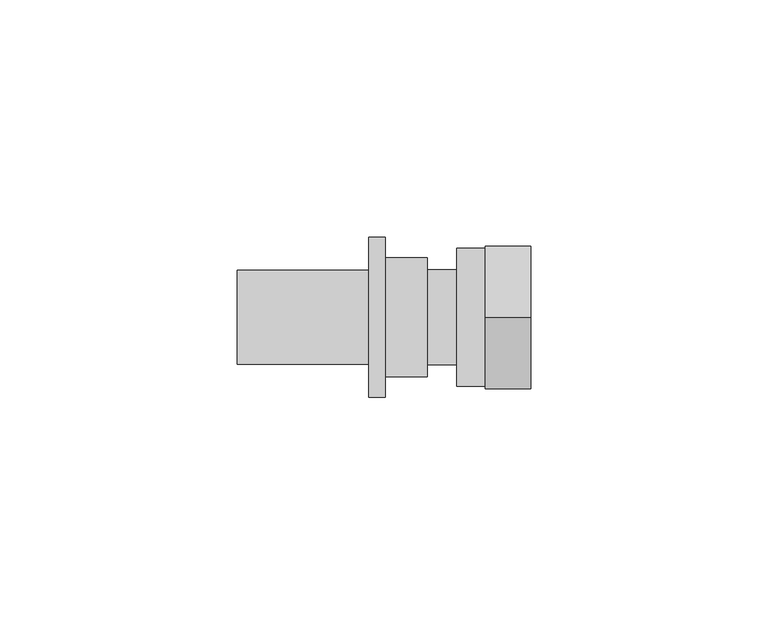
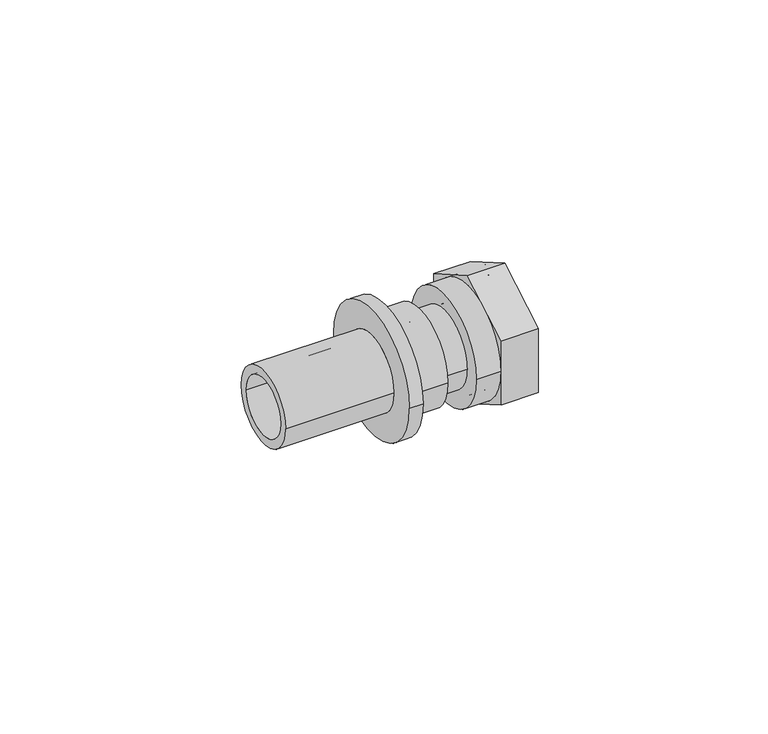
"""IFC4 building model written with IfcOpenShell, lengths in millimetres: pipe fitting geometry, REHAU_RAUTITAN_Adaptor_RX+_union nut : REHAU_RAUTITAN_Adaptor_RX+_union nut."""

from ifc_helpers import new_model, si_unit, point, frame, origin, origin_2d, place, context, project, spatial, polyline, circle_curve, trimmed, segment, composite_curve, outline, extrude, source, transform, mapped, element, save
from ifc_brep_helpers import plane_surface, cylinder_surface, revolved_surface, advanced_brep


def pipe_fitting_46779adb(model_context):
    return source(origin(), model_context, "Body", "SolidModel", [
        advanced_brep(
        [(0.0, 12.5, 0.0), (0.0, -12.5, 0.0), (-8.85, -12.5, 0.0), (-8.85, 12.5, 0.0), (-40.0, 7.6, 0.0), (-40.0, -7.6, 0.0), (0.0, -7.6, 0.0), (0.0, 7.6, 0.0), (-12.35, 9.875, 0.0), (-12.35, -9.875, 0.0), (-40.0, -9.875, 0.0), (-40.0, 9.875, 0.0), (-8.85, 16.8, 0.0), (-8.85, -16.8, 0.0), (-12.35, -16.8, 0.0), (-12.35, 16.8, 0.0)],
        [
            (0, 1, circle_curve(frame((0.0, 0.0, 0.0), z_axis=(-1.0, 0.0, 0.0), x_axis=(0.0, -1.0, 0.0)), 12.5)),
            (1, 2),
            (2, 3, circle_curve(frame((-8.85, 0.0, 0.0), z_axis=(1.0, 0.0, 0.0), x_axis=(0.0, -1.0, 0.0)), 12.5)),
            (3, 0),
            (4, 5, circle_curve(frame((-40.0, 0.0, 0.0), z_axis=(-1.0, 0.0, 0.0), x_axis=(0.0, -1.0, 0.0)), 7.6)),
            (5, 6),
            (6, 7, circle_curve(frame((0.0, 0.0, 0.0), z_axis=(1.0, 0.0, 0.0), x_axis=(0.0, -1.0, 0.0)), 7.6)),
            (7, 4),
            (8, 9, circle_curve(frame((-12.35, 0.0, 0.0), z_axis=(-1.0, 0.0, 0.0), x_axis=(0.0, -1.0, 0.0)), 9.875)),
            (9, 10),
            (10, 11, circle_curve(frame((-40.0, 0.0, 0.0), z_axis=(1.0, 0.0, 0.0), x_axis=(0.0, -1.0, 0.0)), 9.875)),
            (11, 8),
            (12, 13, circle_curve(frame((-8.85, 0.0, 0.0), z_axis=(-1.0, 0.0, 0.0), x_axis=(0.0, -1.0, 0.0)), 16.8)),
            (13, 14),
            (14, 15, circle_curve(frame((-12.35, 0.0, 0.0), z_axis=(1.0, 0.0, 0.0), x_axis=(0.0, -1.0, 0.0)), 16.8)),
            (15, 12),
            (1, 0, circle_curve(frame((0.0, 0.0, 0.0), z_axis=(-1.0, 0.0, 0.0), x_axis=(0.0, 1.0, 0.0)), 12.5)),
            (3, 2, circle_curve(frame((-8.85, 0.0, 0.0), z_axis=(1.0, 0.0, 0.0), x_axis=(0.0, 1.0, 0.0)), 12.5)),
            (6, 7, circle_curve(frame((0.0, 0.0, 0.0), z_axis=(-1.0, 0.0, 0.0), x_axis=(0.0, 1.0, 0.0)), 7.6)),
            (5, 4, circle_curve(frame((-40.0, 0.0, 0.0), z_axis=(-1.0, 0.0, 0.0), x_axis=(0.0, 1.0, 0.0)), 7.6)),
            (10, 11, circle_curve(frame((-40.0, 0.0, 0.0), z_axis=(-1.0, 0.0, 0.0), x_axis=(0.0, 1.0, 0.0)), 9.875)),
            (9, 8, circle_curve(frame((-12.35, 0.0, 0.0), z_axis=(-1.0, 0.0, 0.0), x_axis=(0.0, 1.0, 0.0)), 9.875)),
            (14, 15, circle_curve(frame((-12.35, 0.0, 0.0), z_axis=(-1.0, 0.0, 0.0), x_axis=(0.0, 1.0, 0.0)), 16.8)),
            (13, 12, circle_curve(frame((-8.85, 0.0, 0.0), z_axis=(-1.0, 0.0, 0.0), x_axis=(0.0, 1.0, 0.0)), 16.8)),
        ],
        [
            cylinder_surface(frame((0.0, 0.0, 0.0), z_axis=(1.0, 0.0, 0.0), x_axis=(0.0, -1.0, 0.0)), 12.5),
            revolved_surface(polyline([(0.0, -7.6, 0.0), (-40.0, -7.6, 0.0)]), (0.0, 0.0, 0.0), (1.0, 0.0, 0.0)),
            cylinder_surface(frame((0.0, 0.0, 0.0), z_axis=(1.0, 0.0, 0.0), x_axis=(0.0, -1.0, 0.0)), 9.875),
            cylinder_surface(frame((0.0, 0.0, 0.0), z_axis=(1.0, 0.0, 0.0), x_axis=(0.0, -1.0, 0.0)), 16.8),
            cylinder_surface(frame((0.0, 0.0, 0.0), z_axis=(1.0, 0.0, 0.0), x_axis=(0.0, 1.0, 0.0)), 12.5),
            plane_surface(frame((0.0, 0.0, 0.0), z_axis=(1.0, 0.0, 0.0), x_axis=(0.0, 1.0, 0.0))),
            revolved_surface(polyline([(0.0, 7.6, 0.0), (-40.0, 7.6, 0.0)]), (0.0, 0.0, 0.0), (1.0, 0.0, 0.0)),
            plane_surface(frame((-40.0, 0.0, 0.0), z_axis=(-1.0, 0.0, 0.0), x_axis=(0.0, 1.0, 0.0))),
            cylinder_surface(frame((0.0, 0.0, 0.0), z_axis=(1.0, 0.0, 0.0), x_axis=(0.0, 1.0, 0.0)), 9.875),
            plane_surface(frame((-12.35, 0.0, 0.0), z_axis=(-1.0, 0.0, 0.0), x_axis=(0.0, 1.0, 0.0))),
            cylinder_surface(frame((0.0, 0.0, 0.0), z_axis=(1.0, 0.0, 0.0), x_axis=(0.0, 1.0, 0.0)), 16.8),
            plane_surface(frame((-8.85, 0.0, 0.0), z_axis=(1.0, 0.0, 0.0), x_axis=(0.0, 1.0, 0.0))),
        ],
        [
            (0, [[1, 2, 3, 4]]),
            (1, [[5, 6, 7, 8]]),
            (2, [[9, 10, 11, 12]]),
            (3, [[13, 14, 15, 16]]),
            (4, [[17, -4, 18, -2]]),
            (5, [[-17, -1], [19, -7]]),
            (6, [[20, -8, -19, -6]]),
            (7, [[21, -11], [-20, -5]]),
            (8, [[22, -12, -21, -10]]),
            (9, [[23, -15], [-22, -9]]),
            (10, [[24, -16, -23, -14]]),
            (11, [[-24, -13], [-18, -3]]),
        ],
    ),
        advanced_brep(
        [(9.0, 10.0, 0.0), (9.0, -10.0, 0.0), (0.0, -10.0, 0.0), (0.0, 10.0, 0.0), (12.0, 12.0, 0.0), (12.0, -12.0, 0.0), (9.0, -12.0, 0.0), (9.0, 12.0, 0.0), (1.4730817, 7.6, 0.0), (1.4730817, -7.6, 0.0), (12.0, -7.6, 0.0), (12.0, 7.6, 0.0), (0.0, 5.4264556, 0.0), (0.0, -5.4264556, 0.0), (1.4730817, -5.4264556, 0.0), (1.4730817, 5.4264556, 0.0)],
        [
            (0, 1, circle_curve(frame((9.0, 0.0, 0.0), z_axis=(-1.0, 0.0, 0.0), x_axis=(0.0, -1.0, 0.0)), 10.0)),
            (1, 2),
            (2, 3, circle_curve(frame((0.0, 0.0, 0.0), z_axis=(1.0, 0.0, 0.0), x_axis=(0.0, -1.0, 0.0)), 10.0)),
            (3, 0),
            (4, 5, circle_curve(frame((12.0, 0.0, 0.0), z_axis=(-1.0, 0.0, 0.0), x_axis=(0.0, -1.0, 0.0)), 12.0)),
            (5, 6),
            (6, 7, circle_curve(frame((9.0, 0.0, 0.0), z_axis=(1.0, 0.0, 0.0), x_axis=(0.0, -1.0, 0.0)), 12.0)),
            (7, 4),
            (8, 9, circle_curve(frame((1.4730817, 0.0, 0.0), z_axis=(-1.0, 0.0, 0.0), x_axis=(0.0, -1.0, 0.0)), 7.6)),
            (9, 10),
            (10, 11, circle_curve(frame((12.0, 0.0, 0.0), z_axis=(1.0, 0.0, 0.0), x_axis=(0.0, -1.0, 0.0)), 7.6)),
            (11, 8),
            (2, 3, circle_curve(frame((0.0, 0.0, 0.0), z_axis=(-1.0, 0.0, 0.0), x_axis=(0.0, 1.0, 0.0)), 10.0)),
            (12, 13, circle_curve(frame((0.0, 0.0, 0.0), z_axis=(1.0, 0.0, 0.0), x_axis=(0.0, 1.0, 0.0)), 5.4264556)),
            (13, 12, circle_curve(frame((0.0, 0.0, 0.0), z_axis=(1.0, 0.0, 0.0), x_axis=(0.0, -1.0, 0.0)), 5.4264556)),
            (1, 0, circle_curve(frame((9.0, 0.0, 0.0), z_axis=(-1.0, 0.0, 0.0), x_axis=(0.0, 1.0, 0.0)), 10.0)),
            (6, 7, circle_curve(frame((9.0, 0.0, 0.0), z_axis=(-1.0, 0.0, 0.0), x_axis=(0.0, 1.0, 0.0)), 12.0)),
            (5, 4, circle_curve(frame((12.0, 0.0, 0.0), z_axis=(-1.0, 0.0, 0.0), x_axis=(0.0, 1.0, 0.0)), 12.0)),
            (10, 11, circle_curve(frame((12.0, 0.0, 0.0), z_axis=(-1.0, 0.0, 0.0), x_axis=(0.0, 1.0, 0.0)), 7.6)),
            (9, 8, circle_curve(frame((1.4730817, 0.0, 0.0), z_axis=(-1.0, 0.0, 0.0), x_axis=(0.0, 1.0, 0.0)), 7.6)),
            (13, 14),
            (14, 15, circle_curve(frame((1.4730817, 0.0, 0.0), z_axis=(1.0, 0.0, 0.0), x_axis=(0.0, -1.0, 0.0)), 5.4264556)),
            (15, 12),
            (14, 15, circle_curve(frame((1.4730817, 0.0, 0.0), z_axis=(-1.0, 0.0, 0.0), x_axis=(0.0, 1.0, 0.0)), 5.4264556)),
        ],
        [
            cylinder_surface(frame((0.0, 0.0, 0.0), z_axis=(1.0, 0.0, 0.0), x_axis=(0.0, -1.0, 0.0)), 10.0),
            cylinder_surface(frame((0.0, 0.0, 0.0), z_axis=(1.0, 0.0, 0.0), x_axis=(0.0, -1.0, 0.0)), 12.0),
            revolved_surface(polyline([(12.0, -7.6, 0.0), (1.4730817, -7.6, 0.0)]), (0.0, 0.0, 0.0), (1.0, 0.0, 0.0)),
            plane_surface(frame((0.0, 0.0, 0.0), z_axis=(-1.0, 0.0, 0.0), x_axis=(0.0, 1.0, 0.0))),
            cylinder_surface(frame((0.0, 0.0, 0.0), z_axis=(1.0, 0.0, 0.0), x_axis=(0.0, 1.0, 0.0)), 10.0),
            plane_surface(frame((9.0, 0.0, 0.0), z_axis=(-1.0, 0.0, 0.0), x_axis=(0.0, 1.0, 0.0))),
            cylinder_surface(frame((0.0, 0.0, 0.0), z_axis=(1.0, 0.0, 0.0), x_axis=(0.0, 1.0, 0.0)), 12.0),
            plane_surface(frame((12.0, 0.0, 0.0), z_axis=(1.0, 0.0, 0.0), x_axis=(0.0, 1.0, 0.0))),
            revolved_surface(polyline([(12.0, 7.6, 0.0), (1.4730817, 7.6, 0.0)]), (0.0, 0.0, 0.0), (1.0, 0.0, 0.0)),
            revolved_surface(polyline([(1.4730817, -5.4264556, 0.0), (0.0, -5.4264556, 0.0)]), (0.0, 0.0, 0.0), (1.0, 0.0, 0.0)),
            plane_surface(frame((1.4730817, 0.0, 0.0), z_axis=(1.0, 0.0, 0.0), x_axis=(0.0, 1.0, 0.0))),
            revolved_surface(polyline([(1.4730817, 5.4264556, 0.0), (0.0, 5.4264556, 0.0)]), (0.0, 0.0, 0.0), (1.0, 0.0, 0.0)),
        ],
        [
            (0, [[1, 2, 3, 4]]),
            (1, [[5, 6, 7, 8]]),
            (2, [[9, 10, 11, 12]]),
            (3, [[13, -3], [14, 15]]),
            (4, [[16, -4, -13, -2]]),
            (5, [[17, -7], [-16, -1]]),
            (6, [[18, -8, -17, -6]]),
            (7, [[-18, -5], [19, -11]]),
            (8, [[20, -12, -19, -10]]),
            (9, [[-15, 21, 22, 23]]),
            (10, [[-20, -9], [24, -22]]),
            (11, [[-14, -23, -24, -21]]),
        ],
    ),
        advanced_brep(
        [(21.7, 14.5, 0.0), (21.7, -14.5, 0.0), (6.2, -14.5, 0.0), (6.2, 14.5, 0.0), (9.0, 12.0, 0.0), (9.0, -12.0, 0.0), (21.7, -12.0, 0.0), (21.7, 12.0, 0.0), (6.2, 9.2, 0.0), (6.2, -9.2, 0.0), (9.0, -9.2, 0.0), (9.0, 9.2, 0.0)],
        [
            (0, 1, circle_curve(frame((21.7, 0.0, 0.0), z_axis=(-1.0, 0.0, 0.0), x_axis=(0.0, -1.0, 0.0)), 14.5)),
            (1, 2),
            (2, 3, circle_curve(frame((6.2, 0.0, 0.0), z_axis=(1.0, 0.0, 0.0), x_axis=(0.0, -1.0, 0.0)), 14.5)),
            (3, 0),
            (4, 5, circle_curve(frame((9.0, 0.0, 0.0), z_axis=(-1.0, 0.0, 0.0), x_axis=(0.0, -1.0, 0.0)), 12.0)),
            (5, 6),
            (6, 7, circle_curve(frame((21.7, 0.0, 0.0), z_axis=(1.0, 0.0, 0.0), x_axis=(0.0, -1.0, 0.0)), 12.0)),
            (7, 4),
            (8, 9, circle_curve(frame((6.2, 0.0, 0.0), z_axis=(-1.0, 0.0, 0.0), x_axis=(0.0, -1.0, 0.0)), 9.2)),
            (9, 10),
            (10, 11, circle_curve(frame((9.0, 0.0, 0.0), z_axis=(1.0, 0.0, 0.0), x_axis=(0.0, -1.0, 0.0)), 9.2)),
            (11, 8),
            (1, 0, circle_curve(frame((21.7, 0.0, 0.0), z_axis=(-1.0, 0.0, 0.0), x_axis=(0.0, 1.0, 0.0)), 14.5)),
            (3, 2, circle_curve(frame((6.2, 0.0, 0.0), z_axis=(1.0, 0.0, 0.0), x_axis=(0.0, 1.0, 0.0)), 14.5)),
            (6, 7, circle_curve(frame((21.7, 0.0, 0.0), z_axis=(-1.0, 0.0, 0.0), x_axis=(0.0, 1.0, 0.0)), 12.0)),
            (5, 4, circle_curve(frame((9.0, 0.0, 0.0), z_axis=(-1.0, 0.0, 0.0), x_axis=(0.0, 1.0, 0.0)), 12.0)),
            (10, 11, circle_curve(frame((9.0, 0.0, 0.0), z_axis=(-1.0, 0.0, 0.0), x_axis=(0.0, 1.0, 0.0)), 9.2)),
            (9, 8, circle_curve(frame((6.2, 0.0, 0.0), z_axis=(-1.0, 0.0, 0.0), x_axis=(0.0, 1.0, 0.0)), 9.2)),
        ],
        [
            cylinder_surface(frame((0.0, 0.0, 0.0), z_axis=(1.0, 0.0, 0.0), x_axis=(0.0, -1.0, 0.0)), 14.5),
            revolved_surface(polyline([(21.7, -12.0, 0.0), (9.0, -12.0, 0.0)]), (0.0, 0.0, 0.0), (1.0, 0.0, 0.0)),
            revolved_surface(polyline([(9.0, -9.2, 0.0), (6.2, -9.2, 0.0)]), (0.0, 0.0, 0.0), (1.0, 0.0, 0.0)),
            cylinder_surface(frame((0.0, 0.0, 0.0), z_axis=(1.0, 0.0, 0.0), x_axis=(0.0, 1.0, 0.0)), 14.5),
            plane_surface(frame((21.7, 0.0, 0.0), z_axis=(1.0, 0.0, 0.0), x_axis=(0.0, 1.0, 0.0))),
            revolved_surface(polyline([(21.7, 12.0, 0.0), (9.0, 12.0, 0.0)]), (0.0, 0.0, 0.0), (1.0, 0.0, 0.0)),
            plane_surface(frame((9.0, 0.0, 0.0), z_axis=(1.0, 0.0, 0.0), x_axis=(0.0, 1.0, 0.0))),
            revolved_surface(polyline([(9.0, 9.2, 0.0), (6.2, 9.2, 0.0)]), (0.0, 0.0, 0.0), (1.0, 0.0, 0.0)),
            plane_surface(frame((6.2, 0.0, 0.0), z_axis=(-1.0, 0.0, 0.0), x_axis=(0.0, 1.0, 0.0))),
        ],
        [
            (0, [[1, 2, 3, 4]]),
            (1, [[5, 6, 7, 8]]),
            (2, [[9, 10, 11, 12]]),
            (3, [[13, -4, 14, -2]]),
            (4, [[-13, -1], [15, -7]]),
            (5, [[16, -8, -15, -6]]),
            (6, [[-16, -5], [17, -11]]),
            (7, [[18, -12, -17, -10]]),
            (8, [[-14, -3], [-18, -9]]),
        ],
    ),
        extrude(outline(polyline([(0.0, -17.3205081), (-15.0, -8.660254), (-15.0, 8.660254), (0.0, 17.3205081), (15.0, 8.660254), (15.0, -8.660254), (0.0, -17.3205081)]), holes=[composite_curve([segment(trimmed(circle_curve(origin_2d(), 14.5), [point((-14.5, 0.0))], [point((14.5, 0.0))], True, "CARTESIAN"), True, "CONTINUOUS"), segment(trimmed(circle_curve(origin_2d(), 14.5), [point((14.5, 0.0))], [point((-14.5, 0.0))], True, "CARTESIAN"), True, "CONTINUOUS")], self_intersect=False)]), frame((12.2, 0.0, 0.0), z_axis=(1.0, 0.0, 0.0), x_axis=(0.0, 1.0, 0.0)), (0.0, 0.0, 1.0), 9.5),
    ])


if __name__ == "__main__":
    model = new_model("IFC4")
    model_context = context("Model", 3, world=origin())
    ifc_project = project(units=[si_unit("LENGTHUNIT", "METRE", prefix="MILLI")], contexts=[model_context])
    site = spatial("IfcSite", under=ifc_project)
    building = spatial("IfcBuilding", under=site)
    placement = place(None, origin())
    pipe_fitting_shape = pipe_fitting_46779adb(model_context)
    element("IfcPipeFitting", 1, ObjectType="REHAU_RAUTITAN_Adaptor_RX+_union nut : REHAU_RAUTITAN_Adaptor_RX+_union nut", at=placement, inside=building, context=model_context, shape_type="MappedRepresentation", body=[
        mapped(pipe_fitting_shape, transform((0.0, 0.0, 0.0), x_axis=(1.0, 0.0, 0.0), y_axis=(0.0, 1.0, 0.0), z_axis=(0.0, 0.0, 1.0))),
    ])
    save(model, "model.ifc")
